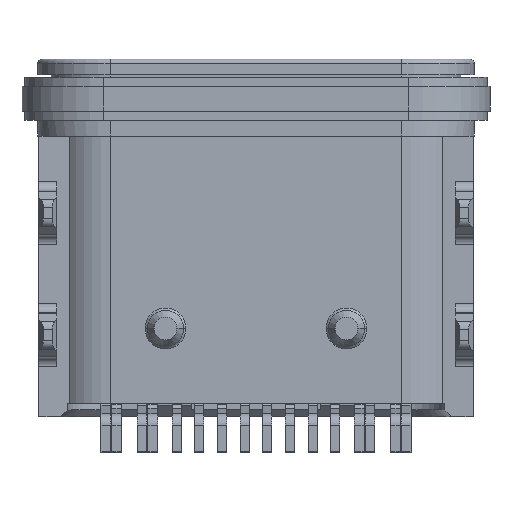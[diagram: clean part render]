
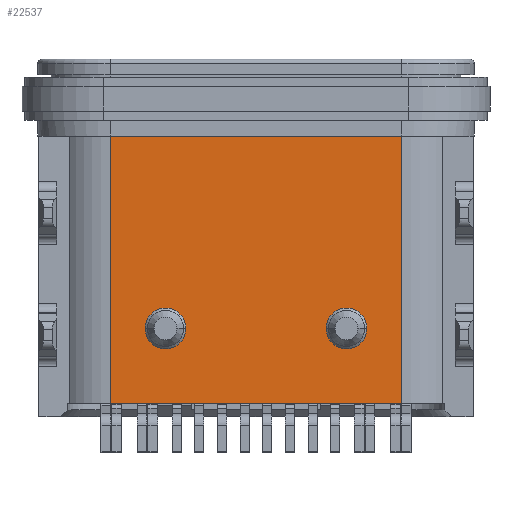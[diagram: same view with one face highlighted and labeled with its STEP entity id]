
A CAD part, front view. The second image highlights one B-rep face of the part: STEP entity #22537.
In plain terms, the highlighted planar face has unit normal (0, -1, 0).
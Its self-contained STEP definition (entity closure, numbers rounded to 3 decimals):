
#100 = CARTESIAN_POINT ( 'NONE',  ( 2.92, 1.005, -5.9 ) ) ;
#506 = VECTOR ( 'NONE', #1376, 1000. ) ;
#1224 = AXIS2_PLACEMENT_3D ( 'NONE', #5035, #15753, #34832 ) ;
#1376 = DIRECTION ( 'NONE',  ( -1., 0., 0. ) ) ;
#1590 = EDGE_CURVE ( 'NONE', #10994, #25288, #14388, .T. ) ;
#1681 = DIRECTION ( 'NONE',  ( -1., 0., 0. ) ) ;
#2202 = EDGE_CURVE ( 'NONE', #32901, #25684, #14200, .T. ) ;
#2207 = AXIS2_PLACEMENT_3D ( 'NONE', #17920, #26122, #1681 ) ;
#2584 = CARTESIAN_POINT ( 'NONE',  ( 1.25, 1.005, -1.65 ) ) ;
#2787 = CARTESIAN_POINT ( 'NONE',  ( 1.25, 1.005, -7.55 ) ) ;
#3081 = VERTEX_POINT ( 'NONE', #14210 ) ;
#3512 = CIRCLE ( 'NONE', #23456, 0.45 ) ;
#3535 = CARTESIAN_POINT ( 'NONE',  ( 1.25, 1.005, -1.65 ) ) ;
#3884 = DIRECTION ( 'NONE',  ( 1., 0., 0. ) ) ;
#4879 = PLANE ( 'NONE',  #1224 ) ;
#5035 = CARTESIAN_POINT ( 'NONE',  ( 4.47, 1.005, -4.35 ) ) ;
#5433 = LINE ( 'NONE', #2584, #32543 ) ;
#6671 = CARTESIAN_POINT ( 'NONE',  ( 2.02, 1.005, -5.9 ) ) ;
#6882 = CIRCLE ( 'NONE', #8016, 0.45 ) ;
#8016 = AXIS2_PLACEMENT_3D ( 'NONE', #34534, #35210, #35054 ) ;
#8484 = DIRECTION ( 'NONE',  ( 0., 0., -1. ) ) ;
#8842 = ORIENTED_EDGE ( 'NONE', *, *, #1590, .F. ) ;
#9456 = VERTEX_POINT ( 'NONE', #100 ) ;
#10616 = CARTESIAN_POINT ( 'NONE',  ( 6.92, 1.005, -5.9 ) ) ;
#10994 = VERTEX_POINT ( 'NONE', #20884 ) ;
#12951 = ORIENTED_EDGE ( 'NONE', *, *, #2202, .F. ) ;
#13332 = EDGE_CURVE ( 'NONE', #29248, #9456, #13605, .T. ) ;
#13557 = CARTESIAN_POINT ( 'NONE',  ( 1.25, 1.005, -1.65 ) ) ;
#13605 = CIRCLE ( 'NONE', #2207, 0.45 ) ;
#13911 = CARTESIAN_POINT ( 'NONE',  ( 6.47, 1.005, -5.9 ) ) ;
#14200 = CIRCLE ( 'NONE', #34159, 0.45 ) ;
#14210 = CARTESIAN_POINT ( 'NONE',  ( 7.69, 1.005, -1.65 ) ) ;
#14388 = LINE ( 'NONE', #22945, #506 ) ;
#14887 = ORIENTED_EDGE ( 'NONE', *, *, #13332, .F. ) ;
#15708 = CARTESIAN_POINT ( 'NONE',  ( 6.47, 1.005, -5.9 ) ) ;
#15753 = DIRECTION ( 'NONE',  ( 0., 1., 0. ) ) ;
#15833 = EDGE_CURVE ( 'NONE', #9456, #29248, #6882, .T. ) ;
#16230 = DIRECTION ( 'NONE',  ( 1., 0., 0. ) ) ;
#16430 = FACE_BOUND ( 'NONE', #21055, .T. ) ;
#17051 = EDGE_CURVE ( 'NONE', #3081, #10994, #22041, .T. ) ;
#17920 = CARTESIAN_POINT ( 'NONE',  ( 2.47, 1.005, -5.9 ) ) ;
#19697 = ORIENTED_EDGE ( 'NONE', *, *, #20910, .F. ) ;
#20589 = ORIENTED_EDGE ( 'NONE', *, *, #22953, .F. ) ;
#20884 = CARTESIAN_POINT ( 'NONE',  ( 7.69, 1.005, -7.55 ) ) ;
#20910 = EDGE_CURVE ( 'NONE', #29794, #3081, #27974, .T. ) ;
#21055 = EDGE_LOOP ( 'NONE', ( #26651, #14887 ) ) ;
#22041 = LINE ( 'NONE', #32933, #29208 ) ;
#22089 = EDGE_CURVE ( 'NONE', #29794, #25288, #5433, .T. ) ;
#22537 = ADVANCED_FACE ( 'NONE', ( #26627, #29325, #16430 ), #4879, .F. ) ;
#22945 = CARTESIAN_POINT ( 'NONE',  ( 7.69, 1.005, -7.55 ) ) ;
#22953 = EDGE_CURVE ( 'NONE', #25684, #32901, #3512, .T. ) ;
#23456 = AXIS2_PLACEMENT_3D ( 'NONE', #15708, #24408, #16230 ) ;
#24408 = DIRECTION ( 'NONE',  ( 0., -1., 0. ) ) ;
#25288 = VERTEX_POINT ( 'NONE', #2787 ) ;
#25575 = ORIENTED_EDGE ( 'NONE', *, *, #22089, .T. ) ;
#25684 = VERTEX_POINT ( 'NONE', #10616 ) ;
#26122 = DIRECTION ( 'NONE',  ( 0., -1., 0. ) ) ;
#26627 = FACE_OUTER_BOUND ( 'NONE', #33998, .T. ) ;
#26651 = ORIENTED_EDGE ( 'NONE', *, *, #15833, .F. ) ;
#26989 = EDGE_LOOP ( 'NONE', ( #20589, #12951 ) ) ;
#27974 = LINE ( 'NONE', #3535, #29698 ) ;
#29208 = VECTOR ( 'NONE', #8484, 1000. ) ;
#29248 = VERTEX_POINT ( 'NONE', #6671 ) ;
#29325 = FACE_BOUND ( 'NONE', #26989, .T. ) ;
#29698 = VECTOR ( 'NONE', #3884, 1000. ) ;
#29794 = VERTEX_POINT ( 'NONE', #13557 ) ;
#29853 = ORIENTED_EDGE ( 'NONE', *, *, #17051, .F. ) ;
#29884 = DIRECTION ( 'NONE',  ( 0., 0., -1. ) ) ;
#29975 = DIRECTION ( 'NONE',  ( 0., -1., 0. ) ) ;
#30011 = CARTESIAN_POINT ( 'NONE',  ( 6.02, 1.005, -5.9 ) ) ;
#32543 = VECTOR ( 'NONE', #29884, 1000. ) ;
#32901 = VERTEX_POINT ( 'NONE', #30011 ) ;
#32933 = CARTESIAN_POINT ( 'NONE',  ( 7.69, 1.005, -1.65 ) ) ;
#33169 = DIRECTION ( 'NONE',  ( -1., 0., 0. ) ) ;
#33998 = EDGE_LOOP ( 'NONE', ( #19697, #25575, #8842, #29853 ) ) ;
#34159 = AXIS2_PLACEMENT_3D ( 'NONE', #13911, #29975, #33169 ) ;
#34534 = CARTESIAN_POINT ( 'NONE',  ( 2.47, 1.005, -5.9 ) ) ;
#34832 = DIRECTION ( 'NONE',  ( 0., 0., -1. ) ) ;
#35054 = DIRECTION ( 'NONE',  ( 1., 0., 0. ) ) ;
#35210 = DIRECTION ( 'NONE',  ( 0., -1., 0. ) ) ;
